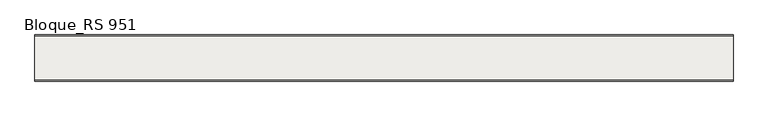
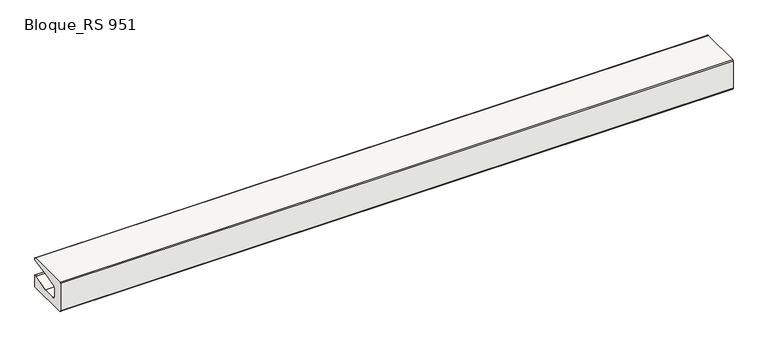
"""IFC4 building model written with IfcOpenShell, lengths in millimetres: slab geometry, ROSA GRES_RS 951 : Bloque_RS 951."""

import ifcopenshell
import ifcopenshell.guid

model = None  # the IFC model being written
_history = None  # IfcOwnerHistory: only IFC2X3 demands one
_inside = {}  # id of a spatial element -> (the spatial element, [elements in it])
_under = {}  # id of a project, library or spatial element -> (it, [spatial elements below it])
_declared = {}  # id of a project -> (the project, [libraries it declares])
_typed = {}  # id of a type object -> (the type object, [elements of that type])
_made_of = {}  # id of a material, layer set ... -> (it, [elements and type objects made of it])


def new_model(schema):
    """Start an empty IFC model of exactly this schema.

    Asked for "IFC4X3", IfcOpenShell would pick the latest addendum, in which some entities
    have other attributes; the version numbers below select the first issue.
    IFC2X3 requires an IfcOwnerHistory on every rooted entity: one is made here for all.
    """
    global model, _history
    if schema == "IFC4X3":
        model = ifcopenshell.file(schema_version=(4, 3, 0, 0))
    else:
        model = ifcopenshell.file(schema=schema)
    _inside.clear()
    _under.clear()
    _declared.clear()
    _typed.clear()
    _made_of.clear()
    _history = None
    if model.schema == "IFC2X3":
        org = make("IfcOrganization", Name="unknown")
        user = make(
            "IfcPersonAndOrganization",
            ThePerson=make("IfcPerson", FamilyName="unknown"),
            TheOrganization=org,
        )
        app = make(
            "IfcApplication",
            ApplicationDeveloper=org,
            Version="unknown",
            ApplicationFullName="unknown",
            ApplicationIdentifier="unknown",
        )
        _history = make(
            "IfcOwnerHistory",
            OwningUser=user,
            OwningApplication=app,
            ChangeAction="ADDED",
            CreationDate=0,
        )
    return model


def make(cls, **values):
    """One entity of the class cls with the attributes given. An attribute that is None is left unset."""
    return model.create_entity(
        cls, **{name: value for name, value in values.items() if value is not None}
    )


def rooted(cls, **values):
    """An entity with a GlobalId (a new one), such as an element, a storey or a relation."""
    return make(cls, GlobalId=ifcopenshell.guid.new(), OwnerHistory=_history, **values)


def si_unit(unit_type, name, prefix=None):
    """IfcSIUnit, for example si_unit("LENGTHUNIT", "METRE", prefix="MILLI")."""
    return make("IfcSIUnit", UnitType=unit_type, Prefix=prefix, Name=name)


def assignment(units):
    """IfcUnitAssignment: the units of a project."""
    return None if units is None else make("IfcUnitAssignment", Units=units)


def point(xyz):
    """IfcCartesianPoint."""
    return None if xyz is None else make("IfcCartesianPoint", Coordinates=xyz)


def direction(xyz):
    """IfcDirection."""
    return None if xyz is None else make("IfcDirection", DirectionRatios=xyz)


def frame(location, z_axis=None, x_axis=None):
    """IfcAxis2Placement3D, a coordinate frame: its origin and axes. An axis left out is left unset."""
    return make(
        "IfcAxis2Placement3D",
        Location=point(location),
        Axis=direction(z_axis),
        RefDirection=direction(x_axis),
    )


def frame_2d(location, x_axis=None):
    """IfcAxis2Placement2D, a coordinate frame in the plane: its origin and x axis."""
    return make(
        "IfcAxis2Placement2D", Location=point(location), RefDirection=direction(x_axis)
    )


def origin():
    """The frame at (0, 0, 0) with its axes left unset."""
    return frame((0.0, 0.0, 0.0))


def place(relative_to, where):
    """IfcLocalPlacement: puts the frame where relative to a parent placement (None: the world)."""
    return make(
        "IfcLocalPlacement", PlacementRelTo=relative_to, RelativePlacement=where
    )


def context(
    kind, dimensions, precision=None, world=None, true_north=None, identifier=None
):
    """IfcGeometricRepresentationContext, for example the 3D "Model" context."""
    return make(
        "IfcGeometricRepresentationContext",
        ContextIdentifier=identifier,
        ContextType=kind,
        CoordinateSpaceDimension=dimensions,
        Precision=precision,
        WorldCoordinateSystem=world,
        TrueNorth=true_north,
    )


def project(units=None, contexts=None):
    """IfcProject with its units and contexts."""
    return rooted(
        "IfcProject",
        Name="project",
        RepresentationContexts=contexts,
        UnitsInContext=assignment(units),
    )


def spatial(cls, under=None, at=None, **own):
    """A site, building, storey or space (cls), placed at a placement, below another one or the project."""
    s = rooted(cls, ObjectPlacement=at, **own)
    if under is not None:
        _under.setdefault(under.id(), (under, []))[1].append(s)
    return s


def polyline(points):
    """IfcPolyline through the points."""
    return make("IfcPolyline", Points=[point(p) for p in points])


def circle_curve(where, radius):
    """IfcCircle in the frame where."""
    return make("IfcCircle", Position=where, Radius=radius)


def trimmed(basis, trim1, trim2, sense, master):
    """IfcTrimmedCurve: the piece of a basis curve between two trims."""
    return make(
        "IfcTrimmedCurve",
        BasisCurve=basis,
        Trim1=trim1,
        Trim2=trim2,
        SenseAgreement=sense,
        MasterRepresentation=master,
    )


def segment(curve, same_sense, transition):
    """IfcCompositeCurveSegment."""
    return make(
        "IfcCompositeCurveSegment",
        Transition=transition,
        SameSense=same_sense,
        ParentCurve=curve,
    )


def composite_curve(segments, self_intersect=None):
    """IfcCompositeCurve: segments joined end to end."""
    return make("IfcCompositeCurve", Segments=segments, SelfIntersect=self_intersect)


def outline(outer, holes=None, kind="AREA"):
    """IfcArbitraryClosedProfileDef: a profile drawn as a closed curve; with holes, ...WithVoids."""
    if holes is None:
        return make("IfcArbitraryClosedProfileDef", ProfileType=kind, OuterCurve=outer)
    return make(
        "IfcArbitraryProfileDefWithVoids",
        ProfileType=kind,
        OuterCurve=outer,
        InnerCurves=holes,
    )


def extrude(swept, where, along, depth):
    """IfcExtrudedAreaSolid: the profile swept, set in the frame where, extruded along a direction by depth."""
    return make(
        "IfcExtrudedAreaSolid",
        SweptArea=swept,
        Position=where,
        ExtrudedDirection=direction(along),
        Depth=depth,
    )


def shape(context_of_items, identifier, shape_type, items):
    """IfcShapeRepresentation: the items that make up one representation, for example the "Body"."""
    return make(
        "IfcShapeRepresentation",
        ContextOfItems=context_of_items,
        RepresentationIdentifier=identifier,
        RepresentationType=shape_type,
        Items=items,
    )


def source(mapping_origin, context_of_items, identifier, shape_type, items):
    """IfcRepresentationMap: a shape defined once, which mapped items show again and again."""
    return make(
        "IfcRepresentationMap",
        MappingOrigin=mapping_origin,
        MappedRepresentation=shape(context_of_items, identifier, shape_type, items),
    )


def transform(
    local_origin,
    x_axis=None,
    y_axis=None,
    z_axis=None,
    scale=None,
    scale2=None,
    scale3=None,
    uniform=True,
):
    """IfcCartesianTransformationOperator3D, or its non-uniform kind. x_axis, y_axis, z_axis: its Axis1, 2, 3."""
    if uniform:
        return make(
            "IfcCartesianTransformationOperator3D",
            Axis1=direction(x_axis),
            Axis2=direction(y_axis),
            LocalOrigin=point(local_origin),
            Scale=scale,
            Axis3=direction(z_axis),
        )
    return make(
        "IfcCartesianTransformationOperator3DnonUniform",
        Axis1=direction(x_axis),
        Axis2=direction(y_axis),
        LocalOrigin=point(local_origin),
        Scale=scale,
        Axis3=direction(z_axis),
        Scale2=scale2,
        Scale3=scale3,
    )


def mapped(mapping_source, mapping_target):
    """IfcMappedItem: shows the shape of a source again, moved by a transform."""
    return make(
        "IfcMappedItem", MappingSource=mapping_source, MappingTarget=mapping_target
    )


def made_of(thing, what):
    """Note that an element or type object is made of a material, layer set ...; save() writes the relation."""
    if what is not None:
        _made_of.setdefault(what.id(), (what, []))[1].append(thing)
    return thing


def element(
    cls,
    number,
    at=None,
    inside=None,
    cuts=None,
    type_object=None,
    material=None,
    context=None,
    identifier="Body",
    shape_type=None,
    held_by="IfcProductDefinitionShape",
    body=None,
    shapes=None,
    **own,
):
    """One element of the class cls, such as IfcWall. Its Tag is "e" and its number.

    at: its placement. inside: the storey or other place that contains it. cuts: it is an
    opening in that element (IfcRelVoidsElement). A single representation is given by context,
    identifier, shape_type and body (its items); several are given by shapes. held_by: the class
    of the entity that holds the representations. save() writes the other relations.
    """
    e = rooted(cls, Tag="e%d" % number, ObjectPlacement=at, **own)
    if body is not None:
        shapes = [shape(context, identifier, shape_type, body)]
    if shapes is not None:
        e.Representation = make(held_by, Representations=shapes)
    if inside is not None:
        _inside.setdefault(inside.id(), (inside, []))[1].append(e)
    if cuts is not None:
        rooted(
            "IfcRelVoidsElement", RelatingBuildingElement=cuts, RelatedOpeningElement=e
        )
    if type_object is not None:
        _typed.setdefault(type_object.id(), (type_object, []))[1].append(e)
    return made_of(e, material)


def aggregate(whole, parts):
    """IfcRelAggregates: a whole, such as a stair, and the parts it consists of."""
    return rooted("IfcRelAggregates", RelatingObject=whole, RelatedObjects=parts)


def save(model, path):
    """Write the relations noted so far, then the file.

    IfcRelAggregates (storeys below a building ...), IfcRelContainedInSpatialStructure (elements
    in a storey), IfcRelDefinesByType, IfcRelAssociatesMaterial and IfcRelDeclares: one each for
    every whole, place, type object, material and project.
    """
    for whole, parts in _under.values():
        aggregate(whole, parts)
    for where, things in _inside.values():
        rooted(
            "IfcRelContainedInSpatialStructure",
            RelatedElements=things,
            RelatingStructure=where,
        )
    for kind, things in _typed.values():
        rooted("IfcRelDefinesByType", RelatedObjects=things, RelatingType=kind)
    for what, things in _made_of.values():
        rooted("IfcRelAssociatesMaterial", RelatedObjects=things, RelatingMaterial=what)
    for by, libraries in _declared.values():
        rooted("IfcRelDeclares", RelatingContext=by, RelatedDefinitions=libraries)
    model.write(path)


def bloque_rs_951_400cc816(model_context):
    return source(origin(), model_context, "Body", "SweptSolid", [
        extrude(outline(composite_curve([segment(polyline([(-20.0, 10.0), (-307.2035155, 10.0)]), True, "CONTINUOUS"), segment(trimmed(circle_curve(frame_2d((-307.2035155, 20.0)), 10.0), [point((-307.2035155, 10.0))], [point((-317.2035155, 20.0))], False, "CARTESIAN"), True, "CONTINUOUS"), segment(polyline([(-317.2035155, 20.0), (-317.2035155, 213.2873902)]), True, "CONTINUOUS"), segment(trimmed(circle_curve(frame_2d((-312.2133333, 213.297208)), 4.9901918), [point((-317.2035155, 213.2873902))], [point((-311.9003845, 218.2775772))], False, "CARTESIAN"), True, "CONTINUOUS"), segment(polyline([(-311.9003845, 218.2775772), (-27.9999903, 218.2775772)]), True, "CONTINUOUS"), segment(trimmed(circle_curve(frame_2d((-27.9999903, 210.2775772)), 8.0), [point((-27.9999903, 218.2775772))], [point((-19.9999903, 210.2775772))], False, "CARTESIAN"), True, "CONTINUOUS"), segment(polyline([(-19.9999903, 210.2775772), (-19.9999903, 200.0838698), (-141.4794893, 178.287395), (-231.9063097, 153.0272691)]), True, "CONTINUOUS"), segment(trimmed(circle_curve(frame_2d((-225.2461128, 129.1849323)), 24.7551055), [point((-231.9063097, 153.0272691))], [point((-250.0, 128.9393377))], True, "CARTESIAN"), True, "CONTINUOUS"), segment(polyline([(-250.0, 128.9393377), (-250.0, 85.0838698)]), True, "CONTINUOUS"), segment(trimmed(circle_curve(frame_2d((-225.2461128, 84.8382752)), 24.7551055), [point((-250.0, 85.0838698))], [point((-225.0599333, 60.0838698))], True, "CARTESIAN"), True, "CONTINUOUS"), segment(polyline([(-225.0599333, 60.0838698), (-141.2759641, 60.0838698), (-38.2035251, 95.0094288), (-25.0, 95.0094288)]), True, "CONTINUOUS"), segment(trimmed(circle_curve(frame_2d((-25.0, 90.0094288)), 5.0), [point((-25.0, 95.0094288))], [point((-20.0, 90.0094288))], False, "CARTESIAN"), True, "CONTINUOUS"), segment(polyline([(-20.0, 90.0094288), (-20.0, 10.0)]), True, "CONTINUOUS")], self_intersect=False)), frame((0.0, 0.0, 0.0), z_axis=(1.0, 0.0, 0.0), x_axis=(0.0, 1.0, 0.0)), (0.0, 0.0, 1.0), 4500.0),
    ])


if __name__ == "__main__":
    model = new_model("IFC4")
    model_context = context("Model", 3, world=origin())
    ifc_project = project(units=[si_unit("LENGTHUNIT", "METRE", prefix="MILLI")], contexts=[model_context])
    site = spatial("IfcSite", under=ifc_project)
    building = spatial("IfcBuilding", under=site)
    placement = place(None, origin())
    bloque_rs_951_shape = bloque_rs_951_400cc816(model_context)
    element("IfcSlab", 1, ObjectType="ROSA GRES_RS 951 : Bloque_RS 951", at=placement, inside=building, context=model_context, shape_type="MappedRepresentation", body=[
        mapped(bloque_rs_951_shape, transform((0.0, 0.0, 0.0), x_axis=(1.0, 0.0, 0.0), y_axis=(0.0, 1.0, 0.0), z_axis=(0.0, 0.0, 1.0))),
    ])
    save(model, "model.ifc")
